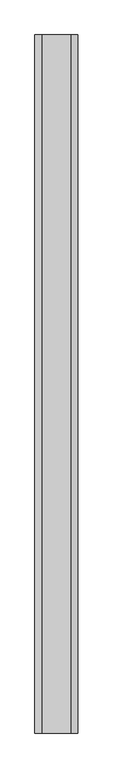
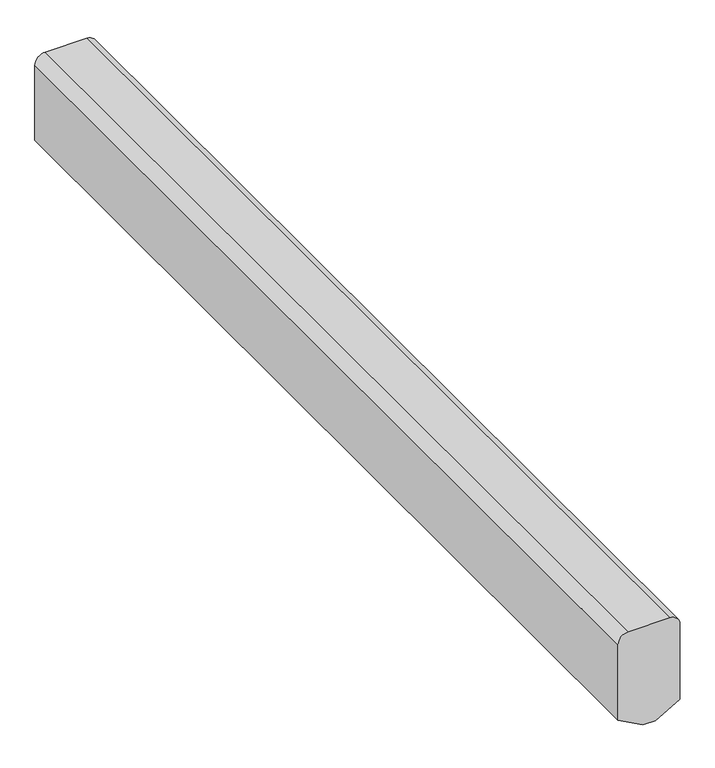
"""IFC4 building model written with IfcOpenShell, lengths in millimetres: railing geometry, Hedge 750mm High."""

import ifcopenshell
import ifcopenshell.guid

model = None  # the IFC model being written
_history = None  # IfcOwnerHistory: only IFC2X3 demands one
_inside = {}  # id of a spatial element -> (the spatial element, [elements in it])
_under = {}  # id of a project, library or spatial element -> (it, [spatial elements below it])
_declared = {}  # id of a project -> (the project, [libraries it declares])
_typed = {}  # id of a type object -> (the type object, [elements of that type])
_made_of = {}  # id of a material, layer set ... -> (it, [elements and type objects made of it])


def new_model(schema):
    """Start an empty IFC model of exactly this schema.

    Asked for "IFC4X3", IfcOpenShell would pick the latest addendum, in which some entities
    have other attributes; the version numbers below select the first issue.
    IFC2X3 requires an IfcOwnerHistory on every rooted entity: one is made here for all.
    """
    global model, _history
    if schema == "IFC4X3":
        model = ifcopenshell.file(schema_version=(4, 3, 0, 0))
    else:
        model = ifcopenshell.file(schema=schema)
    _inside.clear()
    _under.clear()
    _declared.clear()
    _typed.clear()
    _made_of.clear()
    _history = None
    if model.schema == "IFC2X3":
        org = make("IfcOrganization", Name="unknown")
        user = make(
            "IfcPersonAndOrganization",
            ThePerson=make("IfcPerson", FamilyName="unknown"),
            TheOrganization=org,
        )
        app = make(
            "IfcApplication",
            ApplicationDeveloper=org,
            Version="unknown",
            ApplicationFullName="unknown",
            ApplicationIdentifier="unknown",
        )
        _history = make(
            "IfcOwnerHistory",
            OwningUser=user,
            OwningApplication=app,
            ChangeAction="ADDED",
            CreationDate=0,
        )
    return model


def make(cls, **values):
    """One entity of the class cls with the attributes given. An attribute that is None is left unset."""
    return model.create_entity(
        cls, **{name: value for name, value in values.items() if value is not None}
    )


def rooted(cls, **values):
    """An entity with a GlobalId (a new one), such as an element, a storey or a relation."""
    return make(cls, GlobalId=ifcopenshell.guid.new(), OwnerHistory=_history, **values)


def si_unit(unit_type, name, prefix=None):
    """IfcSIUnit, for example si_unit("LENGTHUNIT", "METRE", prefix="MILLI")."""
    return make("IfcSIUnit", UnitType=unit_type, Prefix=prefix, Name=name)


def assignment(units):
    """IfcUnitAssignment: the units of a project."""
    return None if units is None else make("IfcUnitAssignment", Units=units)


def point(xyz):
    """IfcCartesianPoint."""
    return None if xyz is None else make("IfcCartesianPoint", Coordinates=xyz)


def direction(xyz):
    """IfcDirection."""
    return None if xyz is None else make("IfcDirection", DirectionRatios=xyz)


def frame(location, z_axis=None, x_axis=None):
    """IfcAxis2Placement3D, a coordinate frame: its origin and axes. An axis left out is left unset."""
    return make(
        "IfcAxis2Placement3D",
        Location=point(location),
        Axis=direction(z_axis),
        RefDirection=direction(x_axis),
    )


def frame_2d(location, x_axis=None):
    """IfcAxis2Placement2D, a coordinate frame in the plane: its origin and x axis."""
    return make(
        "IfcAxis2Placement2D", Location=point(location), RefDirection=direction(x_axis)
    )


def origin():
    """The frame at (0, 0, 0) with its axes left unset."""
    return frame((0.0, 0.0, 0.0))


def place(relative_to, where):
    """IfcLocalPlacement: puts the frame where relative to a parent placement (None: the world)."""
    return make(
        "IfcLocalPlacement", PlacementRelTo=relative_to, RelativePlacement=where
    )


def context(
    kind, dimensions, precision=None, world=None, true_north=None, identifier=None
):
    """IfcGeometricRepresentationContext, for example the 3D "Model" context."""
    return make(
        "IfcGeometricRepresentationContext",
        ContextIdentifier=identifier,
        ContextType=kind,
        CoordinateSpaceDimension=dimensions,
        Precision=precision,
        WorldCoordinateSystem=world,
        TrueNorth=true_north,
    )


def project(units=None, contexts=None):
    """IfcProject with its units and contexts."""
    return rooted(
        "IfcProject",
        Name="project",
        RepresentationContexts=contexts,
        UnitsInContext=assignment(units),
    )


def spatial(cls, under=None, at=None, **own):
    """A site, building, storey or space (cls), placed at a placement, below another one or the project."""
    s = rooted(cls, ObjectPlacement=at, **own)
    if under is not None:
        _under.setdefault(under.id(), (under, []))[1].append(s)
    return s


def polyline(points):
    """IfcPolyline through the points."""
    return make("IfcPolyline", Points=[point(p) for p in points])


def circle_curve(where, radius):
    """IfcCircle in the frame where."""
    return make("IfcCircle", Position=where, Radius=radius)


def trimmed(basis, trim1, trim2, sense, master):
    """IfcTrimmedCurve: the piece of a basis curve between two trims."""
    return make(
        "IfcTrimmedCurve",
        BasisCurve=basis,
        Trim1=trim1,
        Trim2=trim2,
        SenseAgreement=sense,
        MasterRepresentation=master,
    )


def segment(curve, same_sense, transition):
    """IfcCompositeCurveSegment."""
    return make(
        "IfcCompositeCurveSegment",
        Transition=transition,
        SameSense=same_sense,
        ParentCurve=curve,
    )


def composite_curve(segments, self_intersect=None):
    """IfcCompositeCurve: segments joined end to end."""
    return make("IfcCompositeCurve", Segments=segments, SelfIntersect=self_intersect)


def outline(outer, holes=None, kind="AREA"):
    """IfcArbitraryClosedProfileDef: a profile drawn as a closed curve; with holes, ...WithVoids."""
    if holes is None:
        return make("IfcArbitraryClosedProfileDef", ProfileType=kind, OuterCurve=outer)
    return make(
        "IfcArbitraryProfileDefWithVoids",
        ProfileType=kind,
        OuterCurve=outer,
        InnerCurves=holes,
    )


def extrude(swept, where, along, depth):
    """IfcExtrudedAreaSolid: the profile swept, set in the frame where, extruded along a direction by depth."""
    return make(
        "IfcExtrudedAreaSolid",
        SweptArea=swept,
        Position=where,
        ExtrudedDirection=direction(along),
        Depth=depth,
    )


def shape(context_of_items, identifier, shape_type, items):
    """IfcShapeRepresentation: the items that make up one representation, for example the "Body"."""
    return make(
        "IfcShapeRepresentation",
        ContextOfItems=context_of_items,
        RepresentationIdentifier=identifier,
        RepresentationType=shape_type,
        Items=items,
    )


def source(mapping_origin, context_of_items, identifier, shape_type, items):
    """IfcRepresentationMap: a shape defined once, which mapped items show again and again."""
    return make(
        "IfcRepresentationMap",
        MappingOrigin=mapping_origin,
        MappedRepresentation=shape(context_of_items, identifier, shape_type, items),
    )


def transform(
    local_origin,
    x_axis=None,
    y_axis=None,
    z_axis=None,
    scale=None,
    scale2=None,
    scale3=None,
    uniform=True,
):
    """IfcCartesianTransformationOperator3D, or its non-uniform kind. x_axis, y_axis, z_axis: its Axis1, 2, 3."""
    if uniform:
        return make(
            "IfcCartesianTransformationOperator3D",
            Axis1=direction(x_axis),
            Axis2=direction(y_axis),
            LocalOrigin=point(local_origin),
            Scale=scale,
            Axis3=direction(z_axis),
        )
    return make(
        "IfcCartesianTransformationOperator3DnonUniform",
        Axis1=direction(x_axis),
        Axis2=direction(y_axis),
        LocalOrigin=point(local_origin),
        Scale=scale,
        Axis3=direction(z_axis),
        Scale2=scale2,
        Scale3=scale3,
    )


def mapped(mapping_source, mapping_target):
    """IfcMappedItem: shows the shape of a source again, moved by a transform."""
    return make(
        "IfcMappedItem", MappingSource=mapping_source, MappingTarget=mapping_target
    )


def made_of(thing, what):
    """Note that an element or type object is made of a material, layer set ...; save() writes the relation."""
    if what is not None:
        _made_of.setdefault(what.id(), (what, []))[1].append(thing)
    return thing


def element(
    cls,
    number,
    at=None,
    inside=None,
    cuts=None,
    type_object=None,
    material=None,
    context=None,
    identifier="Body",
    shape_type=None,
    held_by="IfcProductDefinitionShape",
    body=None,
    shapes=None,
    **own,
):
    """One element of the class cls, such as IfcWall. Its Tag is "e" and its number.

    at: its placement. inside: the storey or other place that contains it. cuts: it is an
    opening in that element (IfcRelVoidsElement). A single representation is given by context,
    identifier, shape_type and body (its items); several are given by shapes. held_by: the class
    of the entity that holds the representations. save() writes the other relations.
    """
    e = rooted(cls, Tag="e%d" % number, ObjectPlacement=at, **own)
    if body is not None:
        shapes = [shape(context, identifier, shape_type, body)]
    if shapes is not None:
        e.Representation = make(held_by, Representations=shapes)
    if inside is not None:
        _inside.setdefault(inside.id(), (inside, []))[1].append(e)
    if cuts is not None:
        rooted(
            "IfcRelVoidsElement", RelatingBuildingElement=cuts, RelatedOpeningElement=e
        )
    if type_object is not None:
        _typed.setdefault(type_object.id(), (type_object, []))[1].append(e)
    return made_of(e, material)


def aggregate(whole, parts):
    """IfcRelAggregates: a whole, such as a stair, and the parts it consists of."""
    return rooted("IfcRelAggregates", RelatingObject=whole, RelatedObjects=parts)


def save(model, path):
    """Write the relations noted so far, then the file.

    IfcRelAggregates (storeys below a building ...), IfcRelContainedInSpatialStructure (elements
    in a storey), IfcRelDefinesByType, IfcRelAssociatesMaterial and IfcRelDeclares: one each for
    every whole, place, type object, material and project.
    """
    for whole, parts in _under.values():
        aggregate(whole, parts)
    for where, things in _inside.values():
        rooted(
            "IfcRelContainedInSpatialStructure",
            RelatedElements=things,
            RelatingStructure=where,
        )
    for kind, things in _typed.values():
        rooted("IfcRelDefinesByType", RelatedObjects=things, RelatingType=kind)
    for what, things in _made_of.values():
        rooted("IfcRelAssociatesMaterial", RelatedObjects=things, RelatingMaterial=what)
    for by, libraries in _declared.values():
        rooted("IfcRelDeclares", RelatingContext=by, RelatedDefinitions=libraries)
    model.write(path)


def railing_5606f964(model_context):
    return source(origin(), model_context, "Body", "SweptSolid", [
        extrude(outline(composite_curve([segment(polyline([(3550.0, -13023.5177756), (3550.0, -13323.5177756)]), True, "CONTINUOUS"), segment(trimmed(circle_curve(frame_2d((3475.0, -13323.5177756)), 75.0), [point((3550.0, -13323.5177756))], [point((3475.0, -13398.5177756))], False, "CARTESIAN"), True, "CONTINUOUS"), segment(polyline([(3475.0, -13398.5177756), (2900.0, -13398.5177756), (2800.0, -13218.5177756), (2800.0, -13128.5177756), (2900.0, -12948.5177756), (3475.0, -12948.5177756)]), True, "CONTINUOUS"), segment(trimmed(circle_curve(frame_2d((3475.0, -13023.5177756)), 75.0), [point((3475.0, -12948.5177756))], [point((3550.0, -13023.5177756))], False, "CARTESIAN"), True, "CONTINUOUS")], self_intersect=False)), frame((0.0, 764.0800404, 0.0), z_axis=(0.0, 1.0, 0.0), x_axis=(0.0, 0.0, 1.0)), (0.0, 0.0, 1.0), 7314.23561),
    ])


if __name__ == "__main__":
    model = new_model("IFC4")
    model_context = context("Model", 3, world=origin())
    ifc_project = project(units=[si_unit("LENGTHUNIT", "METRE", prefix="MILLI")], contexts=[model_context])
    site = spatial("IfcSite", under=ifc_project)
    building = spatial("IfcBuilding", under=site)
    placement = place(None, origin())
    railing_shape = railing_5606f964(model_context)
    element("IfcRailing", 1, ObjectType="Hedge 750mm High", at=placement, inside=building, context=model_context, shape_type="MappedRepresentation", body=[
        mapped(railing_shape, transform((0.0, 0.0, 0.0), x_axis=(1.0, 0.0, 0.0), y_axis=(0.0, 1.0, 0.0), z_axis=(0.0, 0.0, 1.0))),
    ])
    save(model, "model.ifc")
